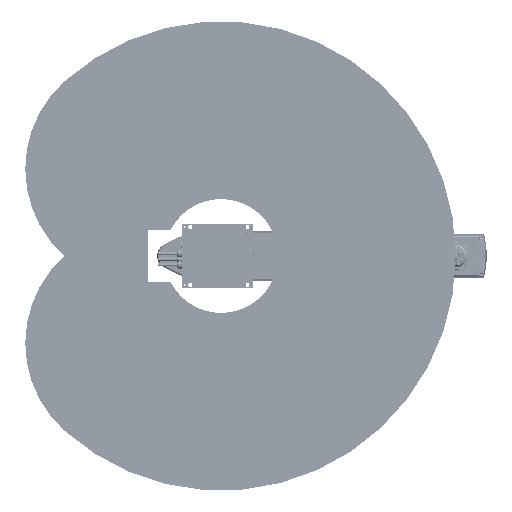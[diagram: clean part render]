
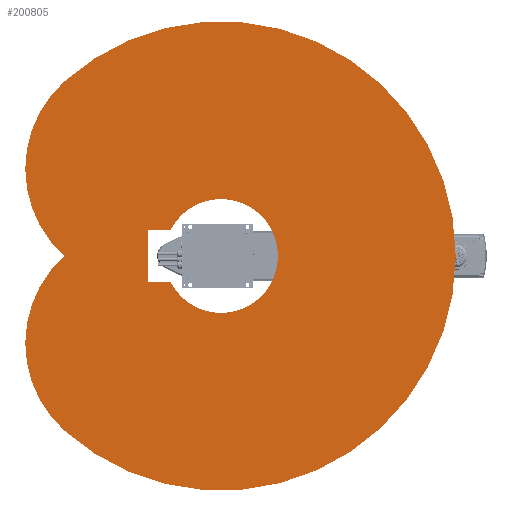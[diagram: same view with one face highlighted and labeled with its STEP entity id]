
A CAD part, front view. The second image highlights one B-rep face of the part: STEP entity #200805.
In plain terms, the highlighted planar face has unit normal (0, -1, 0).
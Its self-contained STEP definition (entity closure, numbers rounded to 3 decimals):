
#1600 = EDGE_CURVE ( 'NONE', #127901, #246954, #56907, .T. ) ;
#5052 = ORIENTED_EDGE ( 'NONE', *, *, #103453, .F. ) ;
#11631 = VERTEX_POINT ( 'NONE', #208768 ) ;
#11788 = ORIENTED_EDGE ( 'NONE', *, *, #163809, .F. ) ;
#21029 = AXIS2_PLACEMENT_3D ( 'NONE', #267734, #135178, #224060 ) ;
#23235 = EDGE_CURVE ( 'NONE', #36391, #39563, #149863, .T. ) ;
#36391 = VERTEX_POINT ( 'NONE', #103863 ) ;
#39563 = VERTEX_POINT ( 'NONE', #137592 ) ;
#44971 = ORIENTED_EDGE ( 'NONE', *, *, #1600, .F. ) ;
#45896 = VERTEX_POINT ( 'NONE', #99322 ) ;
#47444 = ORIENTED_EDGE ( 'NONE', *, *, #226117, .T. ) ;
#56707 = CARTESIAN_POINT ( 'NONE',  ( -90., 0., 250. ) ) ;
#56907 = CIRCLE ( 'NONE', #270857, 400. ) ;
#57974 = DIRECTION ( 'NONE',  ( 0., 0., -1. ) ) ;
#62274 = LINE ( 'NONE', #78364, #77310 ) ;
#67560 = VERTEX_POINT ( 'NONE', #276944 ) ;
#74809 = ORIENTED_EDGE ( 'NONE', *, *, #91124, .T. ) ;
#77310 = VECTOR ( 'NONE', #57974, 1000. ) ;
#78364 = CARTESIAN_POINT ( 'NONE',  ( -90., 0., 0. ) ) ;
#82472 = DIRECTION ( 'NONE',  ( 0., 0., 1. ) ) ;
#83140 = AXIS2_PLACEMENT_3D ( 'NONE', #248159, #223463, #137447 ) ;
#84288 = EDGE_LOOP ( 'NONE', ( #74809, #174737, #11788, #44971 ) ) ;
#84866 = EDGE_CURVE ( 'NONE', #129973, #45896, #62274, .T. ) ;
#89476 = VERTEX_POINT ( 'NONE', #239830 ) ;
#90667 = DIRECTION ( 'NONE',  ( 0., 1., 0. ) ) ;
#91124 = EDGE_CURVE ( 'NONE', #127901, #39563, #204246, .T. ) ;
#93263 = CIRCLE ( 'NONE', #139830, 800. ) ;
#99322 = CARTESIAN_POINT ( 'NONE',  ( -90., 0., 171.86 ) ) ;
#100113 = EDGE_CURVE ( 'NONE', #67560, #11631, #185267, .T. ) ;
#101494 = FACE_BOUND ( 'NONE', #165011, .T. ) ;
#103453 = EDGE_CURVE ( 'NONE', #11631, #129973, #180039, .T. ) ;
#103863 = CARTESIAN_POINT ( 'NONE',  ( 0., 0., -800. ) ) ;
#109406 = CIRCLE ( 'NONE', #21029, 194. ) ;
#109417 = AXIS2_PLACEMENT_3D ( 'NONE', #258762, #216536, #82472 ) ;
#117345 = DIRECTION ( 'NONE',  ( -1., 0., 0. ) ) ;
#119703 = CARTESIAN_POINT ( 'NONE',  ( 90., 0., 0. ) ) ;
#126208 = FACE_OUTER_BOUND ( 'NONE', #84288, .T. ) ;
#127597 = DIRECTION ( 'NONE',  ( 0., 0., 1. ) ) ;
#127901 = VERTEX_POINT ( 'NONE', #170308 ) ;
#129973 = VERTEX_POINT ( 'NONE', #56707 ) ;
#135178 = DIRECTION ( 'NONE',  ( 0., 1., 0. ) ) ;
#136036 = DIRECTION ( 'NONE',  ( 0., 1., 0. ) ) ;
#137260 = DIRECTION ( 'NONE',  ( 0., 0., 1. ) ) ;
#137447 = DIRECTION ( 'NONE',  ( 0., 0., 1. ) ) ;
#137592 = CARTESIAN_POINT ( 'NONE',  ( -594.516, 0., 535.304 ) ) ;
#139830 = AXIS2_PLACEMENT_3D ( 'NONE', #154990, #136036, #243880 ) ;
#144384 = CARTESIAN_POINT ( 'NONE',  ( 594.516, 0., 535.304 ) ) ;
#149863 = CIRCLE ( 'NONE', #177698, 800. ) ;
#154990 = CARTESIAN_POINT ( 'NONE',  ( 0., 0., 0. ) ) ;
#163809 = EDGE_CURVE ( 'NONE', #246954, #36391, #93263, .T. ) ;
#165011 = EDGE_LOOP ( 'NONE', ( #47444, #259794, #167442, #5052, #223508 ) ) ;
#165455 = CIRCLE ( 'NONE', #258855, 194. ) ;
#167442 = ORIENTED_EDGE ( 'NONE', *, *, #84866, .F. ) ;
#169880 = PLANE ( 'NONE',  #109417 ) ;
#170308 = CARTESIAN_POINT ( 'NONE',  ( 0., 0., 535.304 ) ) ;
#174737 = ORIENTED_EDGE ( 'NONE', *, *, #23235, .F. ) ;
#177048 = CARTESIAN_POINT ( 'NONE',  ( 0., 0., 0. ) ) ;
#177698 = AXIS2_PLACEMENT_3D ( 'NONE', #201414, #90667, #269829 ) ;
#180039 = LINE ( 'NONE', #228103, #282247 ) ;
#185267 = LINE ( 'NONE', #119703, #188509 ) ;
#188509 = VECTOR ( 'NONE', #137260, 1000. ) ;
#198943 = DIRECTION ( 'NONE',  ( 0., 1., 0. ) ) ;
#200805 = ADVANCED_FACE ( 'NONE', ( #101494, #126208 ), #169880, .F. ) ;
#201414 = CARTESIAN_POINT ( 'NONE',  ( 0., 0., 0. ) ) ;
#204246 = CIRCLE ( 'NONE', #83140, 400. ) ;
#208768 = CARTESIAN_POINT ( 'NONE',  ( 90., 0., 250. ) ) ;
#216536 = DIRECTION ( 'NONE',  ( 0., 1., 0. ) ) ;
#223463 = DIRECTION ( 'NONE',  ( 0., -1., 0. ) ) ;
#223508 = ORIENTED_EDGE ( 'NONE', *, *, #100113, .F. ) ;
#224060 = DIRECTION ( 'NONE',  ( 0., 0., 1. ) ) ;
#226117 = EDGE_CURVE ( 'NONE', #67560, #89476, #109406, .T. ) ;
#226994 = DIRECTION ( 'NONE',  ( 0., 1., 0. ) ) ;
#228103 = CARTESIAN_POINT ( 'NONE',  ( 0., 0., 250. ) ) ;
#229850 = DIRECTION ( 'NONE',  ( 0., 0., 1. ) ) ;
#239830 = CARTESIAN_POINT ( 'NONE',  ( 0., 0., -194. ) ) ;
#243880 = DIRECTION ( 'NONE',  ( 0., 0., 1. ) ) ;
#246954 = VERTEX_POINT ( 'NONE', #144384 ) ;
#248159 = CARTESIAN_POINT ( 'NONE',  ( -297.258, 0., 267.652 ) ) ;
#251661 = CARTESIAN_POINT ( 'NONE',  ( 297.258, 0., 267.652 ) ) ;
#258762 = CARTESIAN_POINT ( 'NONE',  ( 0., 0., 0. ) ) ;
#258855 = AXIS2_PLACEMENT_3D ( 'NONE', #177048, #198943, #127597 ) ;
#259794 = ORIENTED_EDGE ( 'NONE', *, *, #284184, .T. ) ;
#267734 = CARTESIAN_POINT ( 'NONE',  ( 0., 0., 0. ) ) ;
#269829 = DIRECTION ( 'NONE',  ( 0., 0., 1. ) ) ;
#270857 = AXIS2_PLACEMENT_3D ( 'NONE', #251661, #226994, #229850 ) ;
#276944 = CARTESIAN_POINT ( 'NONE',  ( 90., 0., 171.86 ) ) ;
#282247 = VECTOR ( 'NONE', #117345, 1000. ) ;
#284184 = EDGE_CURVE ( 'NONE', #89476, #45896, #165455, .T. ) ;
